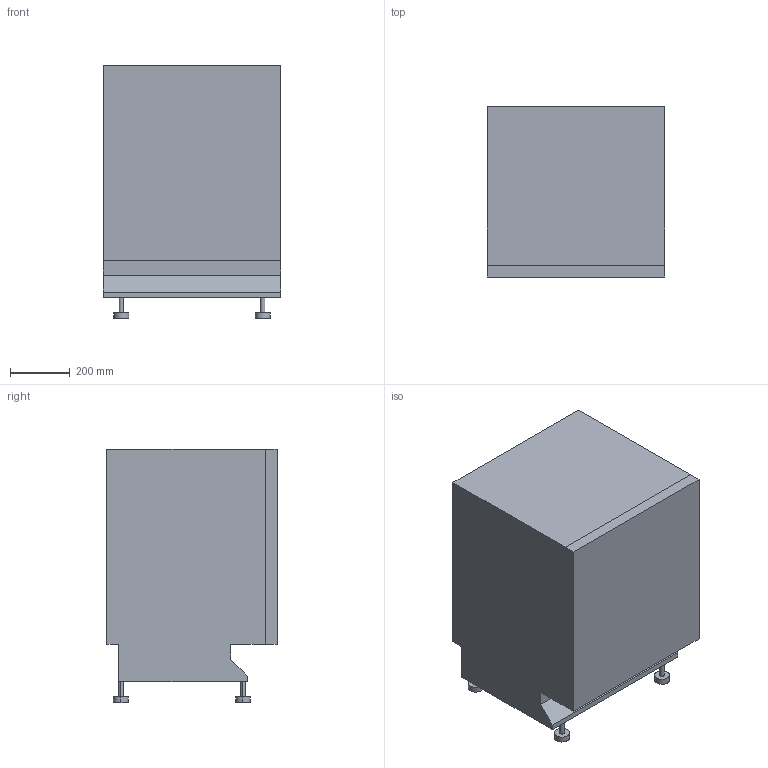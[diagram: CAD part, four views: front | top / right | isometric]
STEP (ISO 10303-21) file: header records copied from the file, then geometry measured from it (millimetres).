
FILE_DESCRIPTION(/* description */ (''),/* implementation_level */ '2;1');
FILE_NAME(/* name */ 'AdoraDish V2000-V6000 VI',/* time_stamp */ '2025-10-20T16:24:41+02:00',/* author */ (''),/* organization */ (''),/* preprocessor_version */ 'ST-DEVELOPER v16.5',/* originating_system */ 'Rhino 7.38',/* authorisation */ '');
FILE_SCHEMA (('CONFIG_CONTROL_DESIGN'));
Length unit declared in the file: millimetre
Products named in the file (1): Document
Bounding box: 596 x 572 x 851 mm (x, y, z)
Volume: 253035140.4 mm3; surface area: 3326372.8 mm2
Topology: 6 solids, 6 shells, 46 faces, 90 edges, 60 vertices
Faces by surface type: plane 30, cylinder 16
Entity records: 1152 total; most frequent: CARTESIAN_POINT 384, ORIENTED_EDGE 180, EDGE_CURVE 90, VERTEX_POINT 60, B_SPLINE_CURVE_WITH_KNOTS 58, EDGE_LOOP 50, DIRECTION 50, AXIS2_PLACEMENT_3D 48
